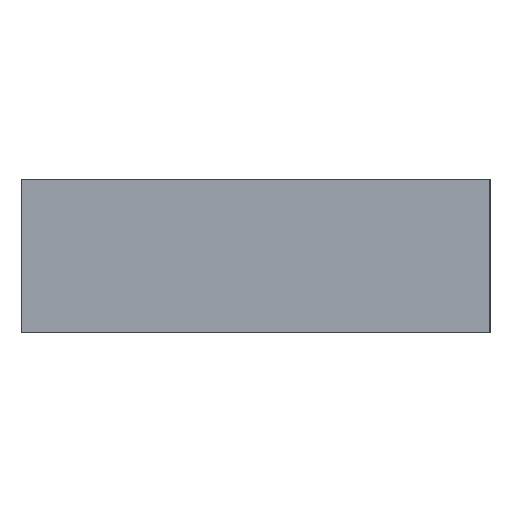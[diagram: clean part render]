
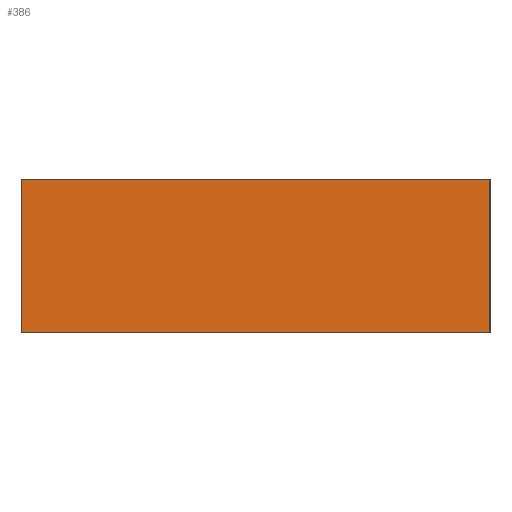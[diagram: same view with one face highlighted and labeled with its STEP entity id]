
A CAD part, left-side view. The second image highlights one B-rep face of the part: STEP entity #386.
In plain terms, the highlighted planar face has unit normal (-1, 0, 0).
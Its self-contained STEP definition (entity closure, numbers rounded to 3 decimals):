
#30=PLANE('',#431);
#51=FACE_OUTER_BOUND('',#75,.T.);
#75=EDGE_LOOP('',(#347,#348,#349,#350));
#103=LINE('',#660,#141);
#108=LINE('',#669,#146);
#111=LINE('',#675,#149);
#114=LINE('',#681,#152);
#141=VECTOR('',#511,10.);
#146=VECTOR('',#518,10.);
#149=VECTOR('',#523,10.);
#152=VECTOR('',#530,10.);
#195=VERTEX_POINT('',#657);
#196=VERTEX_POINT('',#659);
#199=VERTEX_POINT('',#667);
#200=VERTEX_POINT('',#671);
#244=EDGE_CURVE('',#196,#195,#103,.T.);
#249=EDGE_CURVE('',#199,#195,#108,.T.);
#252=EDGE_CURVE('',#196,#200,#111,.T.);
#255=EDGE_CURVE('',#200,#199,#114,.T.);
#347=ORIENTED_EDGE('',*,*,#244,.T.);
#348=ORIENTED_EDGE('',*,*,#249,.F.);
#349=ORIENTED_EDGE('',*,*,#255,.F.);
#350=ORIENTED_EDGE('',*,*,#252,.F.);
#386=ADVANCED_FACE('',(#51),#30,.F.);
#431=AXIS2_PLACEMENT_3D('',#680,#528,#529);
#511=DIRECTION('',(0.,0.,1.));
#518=DIRECTION('',(0.,-1.,0.));
#523=DIRECTION('',(0.,1.,0.));
#528=DIRECTION('center_axis',(1.,0.,0.));
#529=DIRECTION('ref_axis',(0.,0.,-1.));
#530=DIRECTION('',(0.,0.,1.));
#657=CARTESIAN_POINT('',(-89.761,-105.,23.));
#659=CARTESIAN_POINT('',(-89.761,-105.,0.));
#660=CARTESIAN_POINT('',(-89.761,-105.,11.5));
#667=CARTESIAN_POINT('',(-89.761,-35.,23.));
#669=CARTESIAN_POINT('',(-89.761,-70.,23.));
#671=CARTESIAN_POINT('',(-89.761,-35.,0.));
#675=CARTESIAN_POINT('',(-89.761,-70.,0.));
#680=CARTESIAN_POINT('Origin',(-89.761,-70.,11.5));
#681=CARTESIAN_POINT('',(-89.761,-35.,11.5));
